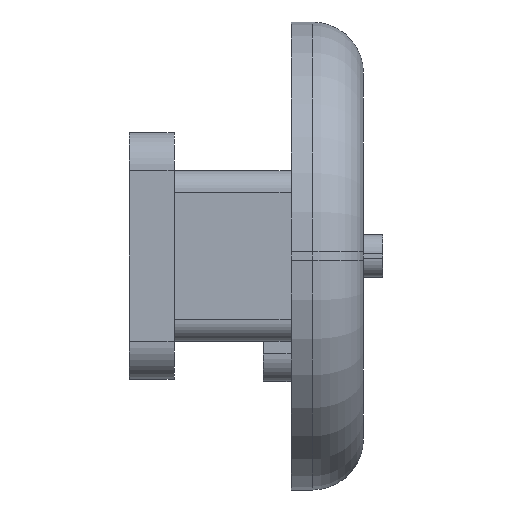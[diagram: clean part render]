
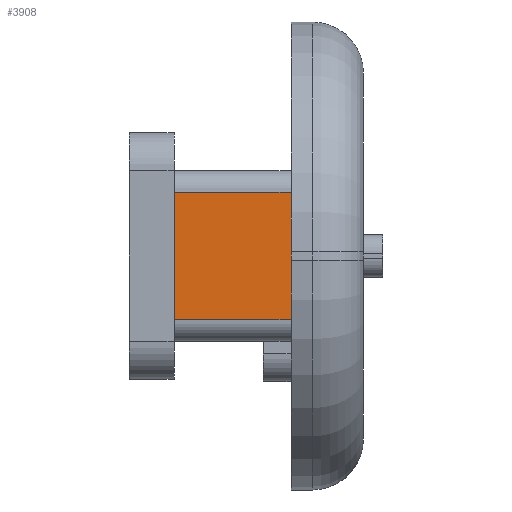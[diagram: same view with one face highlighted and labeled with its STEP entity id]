
A CAD part, front view. The second image highlights one B-rep face of the part: STEP entity #3908.
In plain terms, the highlighted planar face has unit normal (0, -1, 0).
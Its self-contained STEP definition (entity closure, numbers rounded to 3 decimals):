
#698 = PLANE('',#699);
#699 = AXIS2_PLACEMENT_3D('',#700,#701,#702);
#700 = CARTESIAN_POINT('',(39.3,-6.,-14.75));
#701 = DIRECTION('',(-1.,0.,0.));
#702 = DIRECTION('',(0.,0.,1.));
#2645 = PLANE('',#2646);
#2646 = AXIS2_PLACEMENT_3D('',#2647,#2648,#2649);
#2647 = CARTESIAN_POINT('',(36.55,-12.8,-14.75));
#2648 = DIRECTION('',(-1.,0.,0.));
#2649 = DIRECTION('',(0.,0.,1.));
#2993 = VERTEX_POINT('',#2994);
#2994 = CARTESIAN_POINT('',(36.55,-13.4,-16.25));
#3013 = CYLINDRICAL_SURFACE('',#3014,0.5);
#3014 = AXIS2_PLACEMENT_3D('',#3015,#3016,#3017);
#3015 = CARTESIAN_POINT('',(39.5,-12.9,-16.25));
#3016 = DIRECTION('',(-1.,0.,0.));
#3017 = DIRECTION('',(0.,0.,-1.));
#3025 = EDGE_CURVE('',#3026,#2993,#3028,.T.);
#3026 = VERTEX_POINT('',#3027);
#3027 = CARTESIAN_POINT('',(36.55,-13.4,-13.25));
#3028 = SURFACE_CURVE('',#3029,(#3033,#3040),.PCURVE_S1.);
#3029 = LINE('',#3030,#3031);
#3030 = CARTESIAN_POINT('',(36.55,-13.4,-15.5));
#3031 = VECTOR('',#3032,1.);
#3032 = DIRECTION('',(0.,0.,-1.));
#3033 = PCURVE('',#2645,#3034);
#3034 = DEFINITIONAL_REPRESENTATION('',(#3035),#3039);
#3035 = LINE('',#3036,#3037);
#3036 = CARTESIAN_POINT('',(-0.75,-0.6));
#3037 = VECTOR('',#3038,1.);
#3038 = DIRECTION('',(-1.,0.));
#3039 = ( GEOMETRIC_REPRESENTATION_CONTEXT(2) 
PARAMETRIC_REPRESENTATION_CONTEXT() REPRESENTATION_CONTEXT('2D SPACE',''
  ) );
#3040 = PCURVE('',#3041,#3046);
#3041 = PLANE('',#3042);
#3042 = AXIS2_PLACEMENT_3D('',#3043,#3044,#3045);
#3043 = CARTESIAN_POINT('',(39.5,-13.4,-16.25));
#3044 = DIRECTION('',(0.,-1.,-0.));
#3045 = DIRECTION('',(0.,0.,1.));
#3046 = DEFINITIONAL_REPRESENTATION('',(#3047),#3051);
#3047 = LINE('',#3048,#3049);
#3048 = CARTESIAN_POINT('',(0.75,2.95));
#3049 = VECTOR('',#3050,1.);
#3050 = DIRECTION('',(-1.,0.));
#3051 = ( GEOMETRIC_REPRESENTATION_CONTEXT(2) 
PARAMETRIC_REPRESENTATION_CONTEXT() REPRESENTATION_CONTEXT('2D SPACE',''
  ) );
#3074 = CYLINDRICAL_SURFACE('',#3075,0.5);
#3075 = AXIS2_PLACEMENT_3D('',#3076,#3077,#3078);
#3076 = CARTESIAN_POINT('',(39.5,-12.9,-13.25));
#3077 = DIRECTION('',(-1.,0.,0.));
#3078 = DIRECTION('',(0.,-1.,-0.));
#3552 = VERTEX_POINT('',#3553);
#3553 = CARTESIAN_POINT('',(39.3,-13.4,-16.25));
#3579 = EDGE_CURVE('',#3552,#2993,#3580,.T.);
#3580 = SURFACE_CURVE('',#3581,(#3585,#3592),.PCURVE_S1.);
#3581 = LINE('',#3582,#3583);
#3582 = CARTESIAN_POINT('',(39.5,-13.4,-16.25));
#3583 = VECTOR('',#3584,1.);
#3584 = DIRECTION('',(-1.,0.,0.));
#3585 = PCURVE('',#3013,#3586);
#3586 = DEFINITIONAL_REPRESENTATION('',(#3587),#3591);
#3587 = LINE('',#3588,#3589);
#3588 = CARTESIAN_POINT('',(1.571,0.));
#3589 = VECTOR('',#3590,1.);
#3590 = DIRECTION('',(0.,1.));
#3591 = ( GEOMETRIC_REPRESENTATION_CONTEXT(2) 
PARAMETRIC_REPRESENTATION_CONTEXT() REPRESENTATION_CONTEXT('2D SPACE',''
  ) );
#3592 = PCURVE('',#3041,#3593);
#3593 = DEFINITIONAL_REPRESENTATION('',(#3594),#3598);
#3594 = LINE('',#3595,#3596);
#3595 = CARTESIAN_POINT('',(0.,0.));
#3596 = VECTOR('',#3597,1.);
#3597 = DIRECTION('',(0.,1.));
#3598 = ( GEOMETRIC_REPRESENTATION_CONTEXT(2) 
PARAMETRIC_REPRESENTATION_CONTEXT() REPRESENTATION_CONTEXT('2D SPACE',''
  ) );
#3859 = EDGE_CURVE('',#3860,#3026,#3862,.T.);
#3860 = VERTEX_POINT('',#3861);
#3861 = CARTESIAN_POINT('',(39.3,-13.4,-13.25));
#3862 = SURFACE_CURVE('',#3863,(#3867,#3874),.PCURVE_S1.);
#3863 = LINE('',#3864,#3865);
#3864 = CARTESIAN_POINT('',(39.5,-13.4,-13.25));
#3865 = VECTOR('',#3866,1.);
#3866 = DIRECTION('',(-1.,0.,0.));
#3867 = PCURVE('',#3074,#3868);
#3868 = DEFINITIONAL_REPRESENTATION('',(#3869),#3873);
#3869 = LINE('',#3870,#3871);
#3870 = CARTESIAN_POINT('',(0.,0.));
#3871 = VECTOR('',#3872,1.);
#3872 = DIRECTION('',(0.,1.));
#3873 = ( GEOMETRIC_REPRESENTATION_CONTEXT(2) 
PARAMETRIC_REPRESENTATION_CONTEXT() REPRESENTATION_CONTEXT('2D SPACE',''
  ) );
#3874 = PCURVE('',#3041,#3875);
#3875 = DEFINITIONAL_REPRESENTATION('',(#3876),#3880);
#3876 = LINE('',#3877,#3878);
#3877 = CARTESIAN_POINT('',(3.,0.));
#3878 = VECTOR('',#3879,1.);
#3879 = DIRECTION('',(0.,1.));
#3880 = ( GEOMETRIC_REPRESENTATION_CONTEXT(2) 
PARAMETRIC_REPRESENTATION_CONTEXT() REPRESENTATION_CONTEXT('2D SPACE',''
  ) );
#3908 = ADVANCED_FACE('',(#3909),#3041,.T.);
#3909 = FACE_BOUND('',#3910,.T.);
#3910 = EDGE_LOOP('',(#3911,#3912,#3913,#3934));
#3911 = ORIENTED_EDGE('',*,*,#3025,.T.);
#3912 = ORIENTED_EDGE('',*,*,#3579,.F.);
#3913 = ORIENTED_EDGE('',*,*,#3914,.F.);
#3914 = EDGE_CURVE('',#3860,#3552,#3915,.T.);
#3915 = SURFACE_CURVE('',#3916,(#3920,#3927),.PCURVE_S1.);
#3916 = LINE('',#3917,#3918);
#3917 = CARTESIAN_POINT('',(39.3,-13.4,-15.5));
#3918 = VECTOR('',#3919,1.);
#3919 = DIRECTION('',(0.,0.,-1.));
#3920 = PCURVE('',#3041,#3921);
#3921 = DEFINITIONAL_REPRESENTATION('',(#3922),#3926);
#3922 = LINE('',#3923,#3924);
#3923 = CARTESIAN_POINT('',(0.75,0.2));
#3924 = VECTOR('',#3925,1.);
#3925 = DIRECTION('',(-1.,0.));
#3926 = ( GEOMETRIC_REPRESENTATION_CONTEXT(2) 
PARAMETRIC_REPRESENTATION_CONTEXT() REPRESENTATION_CONTEXT('2D SPACE',''
  ) );
#3927 = PCURVE('',#698,#3928);
#3928 = DEFINITIONAL_REPRESENTATION('',(#3929),#3933);
#3929 = LINE('',#3930,#3931);
#3930 = CARTESIAN_POINT('',(-0.75,-7.4));
#3931 = VECTOR('',#3932,1.);
#3932 = DIRECTION('',(-1.,0.));
#3933 = ( GEOMETRIC_REPRESENTATION_CONTEXT(2) 
PARAMETRIC_REPRESENTATION_CONTEXT() REPRESENTATION_CONTEXT('2D SPACE',''
  ) );
#3934 = ORIENTED_EDGE('',*,*,#3859,.T.);
